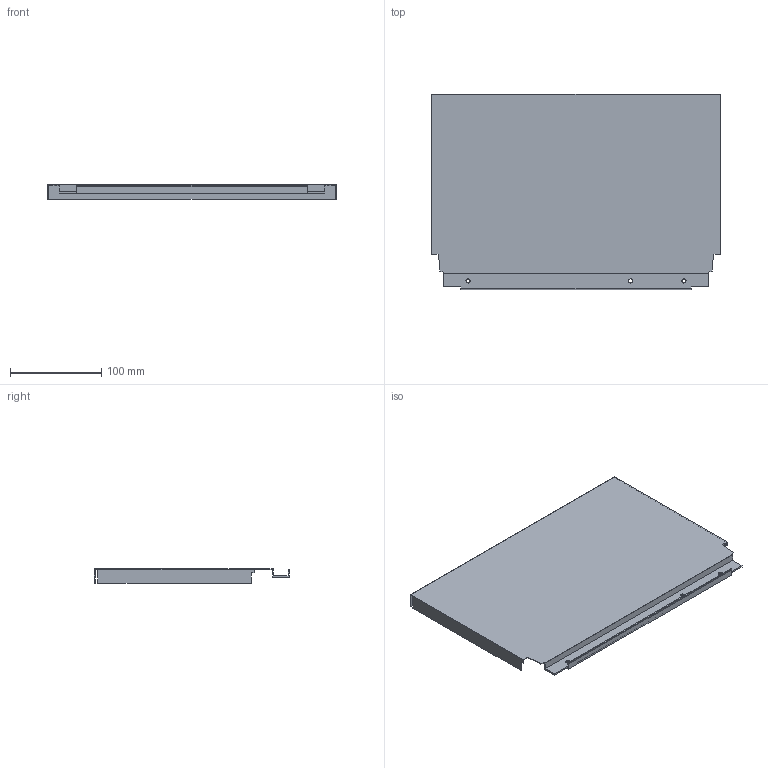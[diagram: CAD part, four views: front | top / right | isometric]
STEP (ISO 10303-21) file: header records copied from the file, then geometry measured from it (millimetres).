
FILE_DESCRIPTION (( 'STEP AP214' ), '1' );
FILE_NAME ('_DWD_XP Stahlrückwand_H214_KAB400_S16.step', '2010-07-08T13:02:46', ( 'grass' ), ( '' ), 'SwSTEP 2.0', 'SolidWorks 2010', '' );
FILE_SCHEMA (( 'AUTOMOTIVE_DESIGN' ));
Length unit declared in the file: millimetre
Products named in the file (1): _DWD_XP Stahlrückwand_H214_KAB400_S16
Bounding box: 317 x 214.58 x 16 mm (x, y, z)
Volume: 76846.4 mm3; surface area: 163170.7 mm2
Topology: 1 solids, 1 shells, 46 faces, 132 edges, 88 vertices
Faces by surface type: plane 40, cylinder 6
Entity records: 1534 total; most frequent: CARTESIAN_POINT 267, ORIENTED_EDGE 264, DIRECTION 238, EDGE_CURVE 132, LINE 120, VECTOR 120, VERTEX_POINT 88, AXIS2_PLACEMENT_3D 59
